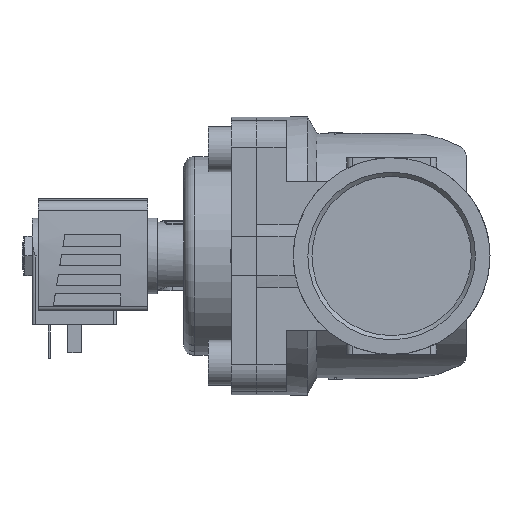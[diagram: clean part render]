
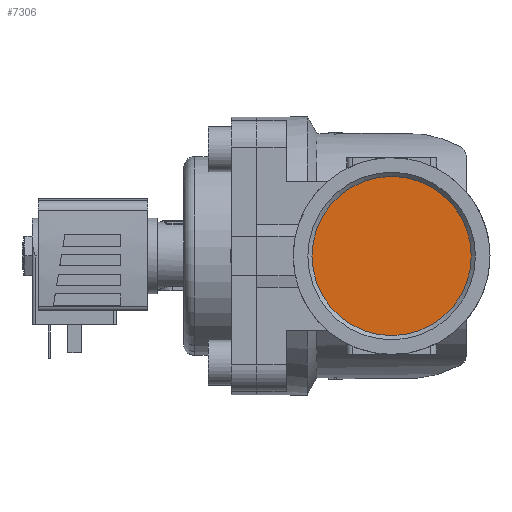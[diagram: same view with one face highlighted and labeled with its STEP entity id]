
A CAD part, left-side view. The second image highlights one B-rep face of the part: STEP entity #7306.
In plain terms, the highlighted planar face has unit normal (-1, 0, 0).
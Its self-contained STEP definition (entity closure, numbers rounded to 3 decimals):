
#2596=ORIENTED_EDGE('',*,*,#3775,.F.);
#3775=EDGE_CURVE('',#4466,#4466,#4798,.T.);
#4466=VERTEX_POINT('',#11292);
#4798=CIRCLE('',#7852,28.328);
#5106=EDGE_LOOP('',(#2596));
#5499=FACE_BOUND('',#5106,.T.);
#5786=PLANE('',#7853);
#7306=ADVANCED_FACE('',(#5499),#5786,.T.);
#7852=AXIS2_PLACEMENT_3D('',#11291,#9234,#9235);
#7853=AXIS2_PLACEMENT_3D('',#11293,#9236,#9237);
#9234=DIRECTION('',(1.,0.,0.));
#9235=DIRECTION('',(0.,1.,0.));
#9236=DIRECTION('',(-1.,0.,0.));
#9237=DIRECTION('',(0.,-1.,0.));
#11291=CARTESIAN_POINT('',(-39.5,0.,0.));
#11292=CARTESIAN_POINT('',(-39.5,28.328,0.));
#11293=CARTESIAN_POINT('',(-39.5,28.328,0.));
